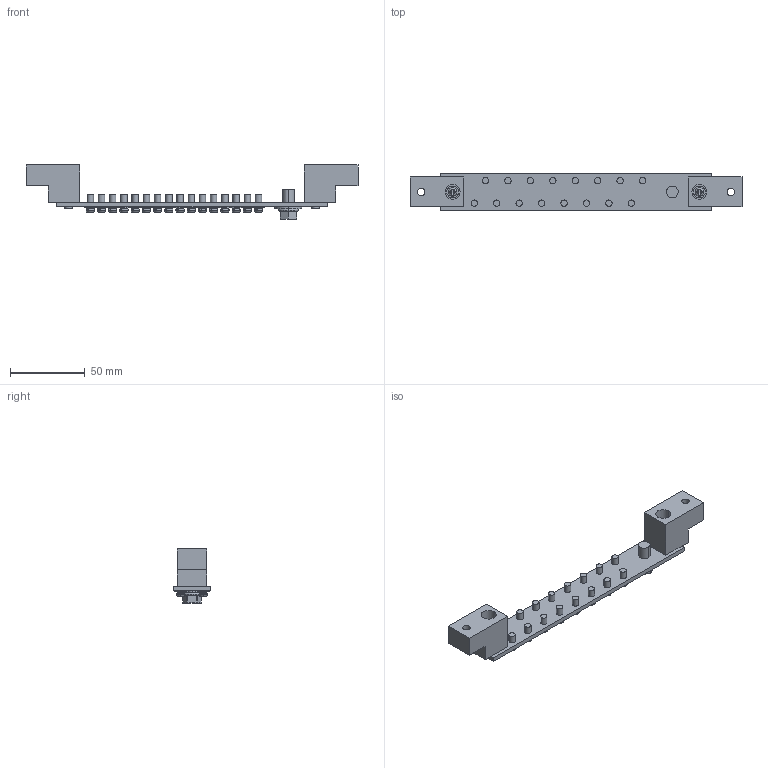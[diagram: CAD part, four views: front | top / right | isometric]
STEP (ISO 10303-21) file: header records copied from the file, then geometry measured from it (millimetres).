
FILE_DESCRIPTION(('Creo Elements/Direct Modeling STEP Export'),'2;1');
FILE_NAME('17N.stp','2025-07-23T16:19:14',(''),(''),'PTC Creo Elements/Direct Modeling STEP processor for AP214 (Solid Model)','PTC Creo Elements/Direct Modeling 19.0 09-May-2014 (C) Parametric Technology GmbH','');
FILE_SCHEMA(('AUTOMOTIVE_DESIGN { 1 0 10303 214 1 1 1 1 }'));
Length unit declared in the file: millimetre
Products named in the file (18): USER_LIBRARY-SAN_ZU_HE_LUO_S_1.prt; quilt.1; quilt.2; quilt.3; M5.1.1.1.1.1.1.1.1.2; a1; SCREW_1_1.PRT; SCREW_1_2.PRT; SCREW_1.ASM; SCREW_0723.stp; M5.1.1.1.1.1.1.1.1.1.1.1.1.1.1; CU; HOLD.1; 17N
Assembly tree (34 placements, depth 4):
  17N
    M5.1.1.1.1.1.1.1.1.2  x8
      quilt.3
      quilt.2
      quilt.1
      USER_LIBRARY-SAN_ZU_HE_LUO_S_1.prt
    HOLD.1  x2
    CU
    M5.1.1.1.1.1.1.1.1.1.1.1.1.1.1  x2
      quilt.3
      quilt.2
      quilt.1
      USER_LIBRARY-SAN_ZU_HE_LUO_S_1.prt
    SCREW_0723.stp
      SCREW_1.ASM
        SCREW_1_2.PRT
        SCREW_1_1.PRT
    a1
      M5.1.1.1.1.1.1.1.1.2  x8
        quilt.3
        quilt.2
        quilt.1
        USER_LIBRARY-SAN_ZU_HE_LUO_S_1.prt
Bounding box: 222 x 25 x 36.2 mm (x, y, z)
Volume: 42480 mm3; surface area: 28543.4 mm2
Topology: 59 solids, 59 shells, 920 faces, 2274 edges, 1498 vertices
Faces by surface type: plane 502, cylinder 288, torus 76, bspline 54
Entity records: 10575 total; most frequent: CARTESIAN_POINT 4624, ORIENTED_EDGE 1008, DIRECTION 964, EDGE_CURVE 504, AXIS2_PLACEMENT_3D 358, VERTEX_POINT 334, EDGE_LOOP 254, VECTOR 248
